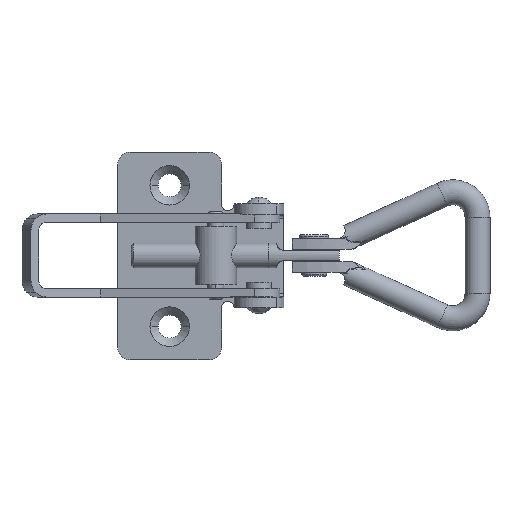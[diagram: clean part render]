
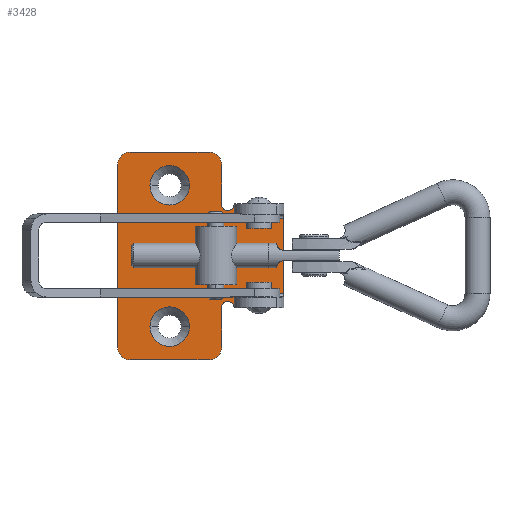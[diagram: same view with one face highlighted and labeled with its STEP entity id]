
A CAD part, top view. The second image highlights one B-rep face of the part: STEP entity #3428.
In plain terms, the highlighted planar face has unit normal (0, 0, 1).
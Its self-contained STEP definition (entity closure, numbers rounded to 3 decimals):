
#2500=CARTESIAN_POINT('',(8.,-12.4,1.3));
#2501=VERTEX_POINT('',#2500);
#2544=CARTESIAN_POINT('',(-19.121,24.121,1.3));
#2545=VERTEX_POINT('',#2544);
#2561=CARTESIAN_POINT('',(-20.0,22.0,1.3));
#2562=VERTEX_POINT('',#2561);
#2569=CARTESIAN_POINT('',(-17.0,22.0,1.3));
#2570=DIRECTION('',(0.0,0.0,-1.));
#2571=DIRECTION('',(-0.707,0.707,0.0));
#2572=AXIS2_PLACEMENT_3D('',#2569,#2570,#2571);
#2573=CIRCLE('',#2572,3.0);
#2574=EDGE_CURVE('',#2562,#2545,#2573,.T.);
#2586=CARTESIAN_POINT('',(-19.121,-24.121,1.3));
#2587=VERTEX_POINT('',#2586);
#2603=CARTESIAN_POINT('',(-17.0,-25.0,1.3));
#2604=VERTEX_POINT('',#2603);
#2611=CARTESIAN_POINT('',(-17.0,-22.0,1.3));
#2612=DIRECTION('',(0.0,0.0,-1.));
#2613=DIRECTION('',(-0.707,-0.707,0.0));
#2614=AXIS2_PLACEMENT_3D('',#2611,#2612,#2613);
#2615=CIRCLE('',#2614,3.0);
#2616=EDGE_CURVE('',#2604,#2587,#2615,.T.);
#2628=CARTESIAN_POINT('',(4.121,-24.121,1.3));
#2629=VERTEX_POINT('',#2628);
#2645=CARTESIAN_POINT('',(5.0,-22.0,1.3));
#2646=VERTEX_POINT('',#2645);
#2653=CARTESIAN_POINT('',(2.,-22.0,1.3));
#2654=DIRECTION('',(0.0,0.0,-1.0));
#2655=DIRECTION('',(0.707,-0.707,0.0));
#2656=AXIS2_PLACEMENT_3D('',#2653,#2654,#2655);
#2657=CIRCLE('',#2656,3.0);
#2658=EDGE_CURVE('',#2646,#2629,#2657,.T.);
#2670=CARTESIAN_POINT('',(4.121,24.121,1.3));
#2671=VERTEX_POINT('',#2670);
#2687=CARTESIAN_POINT('',(2.0,25.0,1.3));
#2688=VERTEX_POINT('',#2687);
#2695=CARTESIAN_POINT('',(2.0,22.0,1.3));
#2696=DIRECTION('',(0.0,0.0,-1.));
#2697=DIRECTION('',(0.707,0.707,0.0));
#2698=AXIS2_PLACEMENT_3D('',#2695,#2696,#2697);
#2699=CIRCLE('',#2698,3.0);
#2700=EDGE_CURVE('',#2688,#2671,#2699,.T.);
#2754=CARTESIAN_POINT('',(8.,12.4,1.3));
#2755=VERTEX_POINT('',#2754);
#2797=CARTESIAN_POINT('',(5.0,12.4,1.3));
#2798=VERTEX_POINT('',#2797);
#2805=CARTESIAN_POINT('',(6.5,12.4,1.3));
#2806=DIRECTION('',(0.0,0.0,1.0));
#2807=DIRECTION('',(1.0,0.0,0.0));
#2808=AXIS2_PLACEMENT_3D('',#2805,#2806,#2807);
#2809=CIRCLE('',#2808,1.5);
#2810=EDGE_CURVE('',#2798,#2755,#2809,.T.);
#3158=CARTESIAN_POINT('',(-12.25,-17.0,1.3));
#3159=VERTEX_POINT('',#3158);
#3173=CARTESIAN_POINT('',(-2.75,-17.0,1.3));
#3174=VERTEX_POINT('',#3173);
#3181=CARTESIAN_POINT('',(-7.5,-17.0,1.3));
#3182=DIRECTION('',(0.0,0.0,1.0));
#3183=DIRECTION('',(-1.0,0.0,0.0));
#3184=AXIS2_PLACEMENT_3D('',#3181,#3182,#3183);
#3185=CIRCLE('',#3184,4.75);
#3186=EDGE_CURVE('',#3174,#3159,#3185,.T.);
#3238=CARTESIAN_POINT('',(-12.25,17.0,1.3));
#3239=VERTEX_POINT('',#3238);
#3253=CARTESIAN_POINT('',(-2.75,17.0,1.3));
#3254=VERTEX_POINT('',#3253);
#3261=CARTESIAN_POINT('',(-7.5,17.0,1.3));
#3262=DIRECTION('',(0.0,0.0,1.0));
#3263=DIRECTION('',(-1.0,0.0,0.0));
#3264=AXIS2_PLACEMENT_3D('',#3261,#3262,#3263);
#3265=CIRCLE('',#3264,4.75);
#3266=EDGE_CURVE('',#3254,#3239,#3265,.T.);
#3277=CARTESIAN_POINT('',(-7.5,17.0,1.3));
#3278=DIRECTION('',(0.0,0.0,1.0));
#3279=DIRECTION('',(-1.0,0.0,0.0));
#3280=AXIS2_PLACEMENT_3D('',#3277,#3278,#3279);
#3281=CIRCLE('',#3280,4.75);
#3282=EDGE_CURVE('',#3239,#3254,#3281,.T.);
#3289=CARTESIAN_POINT('',(-1.939,0.,1.3));
#3290=DIRECTION('',(0.0,0.0,1.0));
#3291=DIRECTION('',(1.0,0.0,0.0));
#3292=AXIS2_PLACEMENT_3D('',#3289,#3290,#3291);
#3293=PLANE('',#3292);
#3294=CARTESIAN_POINT('',(20.,-9.,1.3));
#3295=VERTEX_POINT('',#3294);
#3296=CARTESIAN_POINT('',(8.,-9.0,1.3));
#3297=VERTEX_POINT('',#3296);
#3298=CARTESIAN_POINT('',(20.,-9.,1.3));
#3299=DIRECTION('',(-1.0,0.0,0.0));
#3300=VECTOR('',#3299,12.);
#3301=LINE('',#3298,#3300);
#3302=EDGE_CURVE('',#3295,#3297,#3301,.T.);
#3303=ORIENTED_EDGE('',*,*,#3302,.F.);
#3304=CARTESIAN_POINT('',(20.,9.0,1.3));
#3305=VERTEX_POINT('',#3304);
#3306=CARTESIAN_POINT('',(20.,9.0,1.3));
#3307=DIRECTION('',(0.0,-1.0,0.0));
#3308=VECTOR('',#3307,18.0);
#3309=LINE('',#3306,#3308);
#3310=EDGE_CURVE('',#3305,#3295,#3309,.T.);
#3311=ORIENTED_EDGE('',*,*,#3310,.F.);
#3312=CARTESIAN_POINT('',(8.,9.0,1.3));
#3313=VERTEX_POINT('',#3312);
#3314=CARTESIAN_POINT('',(8.,9.0,1.3));
#3315=DIRECTION('',(1.0,0.0,0.0));
#3316=VECTOR('',#3315,12.);
#3317=LINE('',#3314,#3316);
#3318=EDGE_CURVE('',#3313,#3305,#3317,.T.);
#3319=ORIENTED_EDGE('',*,*,#3318,.F.);
#3320=CARTESIAN_POINT('',(8.,9.0,1.3));
#3321=DIRECTION('',(0.0,1.0,0.0));
#3322=VECTOR('',#3321,3.4);
#3323=LINE('',#3320,#3322);
#3324=EDGE_CURVE('',#3313,#2755,#3323,.T.);
#3325=ORIENTED_EDGE('',*,*,#3324,.T.);
#3326=ORIENTED_EDGE('',*,*,#2810,.F.);
#3327=CARTESIAN_POINT('',(5.0,22.0,1.3));
#3328=VERTEX_POINT('',#3327);
#3329=CARTESIAN_POINT('',(5.0,22.0,1.3));
#3330=DIRECTION('',(0.0,-1.0,0.0));
#3331=VECTOR('',#3330,9.6);
#3332=LINE('',#3329,#3331);
#3333=EDGE_CURVE('',#3328,#2798,#3332,.T.);
#3334=ORIENTED_EDGE('',*,*,#3333,.F.);
#3335=CARTESIAN_POINT('',(2.0,22.0,1.3));
#3336=DIRECTION('',(0.0,0.0,-1.));
#3337=DIRECTION('',(0.707,0.707,0.0));
#3338=AXIS2_PLACEMENT_3D('',#3335,#3336,#3337);
#3339=CIRCLE('',#3338,3.0);
#3340=EDGE_CURVE('',#2671,#3328,#3339,.T.);
#3341=ORIENTED_EDGE('',*,*,#3340,.F.);
#3342=ORIENTED_EDGE('',*,*,#2700,.F.);
#3343=CARTESIAN_POINT('',(-17.0,25.0,1.3));
#3344=VERTEX_POINT('',#3343);
#3345=CARTESIAN_POINT('',(-17.0,25.0,1.3));
#3346=DIRECTION('',(1.0,0.0,0.0));
#3347=VECTOR('',#3346,19.0);
#3348=LINE('',#3345,#3347);
#3349=EDGE_CURVE('',#3344,#2688,#3348,.T.);
#3350=ORIENTED_EDGE('',*,*,#3349,.F.);
#3351=CARTESIAN_POINT('',(-17.0,22.0,1.3));
#3352=DIRECTION('',(0.0,0.0,-1.));
#3353=DIRECTION('',(-0.707,0.707,0.0));
#3354=AXIS2_PLACEMENT_3D('',#3351,#3352,#3353);
#3355=CIRCLE('',#3354,3.0);
#3356=EDGE_CURVE('',#2545,#3344,#3355,.T.);
#3357=ORIENTED_EDGE('',*,*,#3356,.F.);
#3358=ORIENTED_EDGE('',*,*,#2574,.F.);
#3359=CARTESIAN_POINT('',(-20.0,-22.0,1.3));
#3360=VERTEX_POINT('',#3359);
#3361=CARTESIAN_POINT('',(-20.0,-22.0,1.3));
#3362=DIRECTION('',(0.0,1.0,0.0));
#3363=VECTOR('',#3362,44.0);
#3364=LINE('',#3361,#3363);
#3365=EDGE_CURVE('',#3360,#2562,#3364,.T.);
#3366=ORIENTED_EDGE('',*,*,#3365,.F.);
#3367=CARTESIAN_POINT('',(-17.0,-22.0,1.3));
#3368=DIRECTION('',(0.0,0.0,-1.));
#3369=DIRECTION('',(-0.707,-0.707,0.0));
#3370=AXIS2_PLACEMENT_3D('',#3367,#3368,#3369);
#3371=CIRCLE('',#3370,3.0);
#3372=EDGE_CURVE('',#2587,#3360,#3371,.T.);
#3373=ORIENTED_EDGE('',*,*,#3372,.F.);
#3374=ORIENTED_EDGE('',*,*,#2616,.F.);
#3375=CARTESIAN_POINT('',(2.0,-25.0,1.3));
#3376=VERTEX_POINT('',#3375);
#3377=CARTESIAN_POINT('',(2.0,-25.0,1.3));
#3378=DIRECTION('',(-1.0,0.0,0.0));
#3379=VECTOR('',#3378,19.0);
#3380=LINE('',#3377,#3379);
#3381=EDGE_CURVE('',#3376,#2604,#3380,.T.);
#3382=ORIENTED_EDGE('',*,*,#3381,.F.);
#3383=CARTESIAN_POINT('',(2.,-22.0,1.3));
#3384=DIRECTION('',(0.0,0.0,-1.0));
#3385=DIRECTION('',(0.707,-0.707,0.0));
#3386=AXIS2_PLACEMENT_3D('',#3383,#3384,#3385);
#3387=CIRCLE('',#3386,3.0);
#3388=EDGE_CURVE('',#2629,#3376,#3387,.T.);
#3389=ORIENTED_EDGE('',*,*,#3388,.F.);
#3390=ORIENTED_EDGE('',*,*,#2658,.F.);
#3391=CARTESIAN_POINT('',(5.0,-12.4,1.3));
#3392=VERTEX_POINT('',#3391);
#3393=CARTESIAN_POINT('',(5.0,-12.4,1.3));
#3394=DIRECTION('',(0.0,-1.0,0.0));
#3395=VECTOR('',#3394,9.6);
#3396=LINE('',#3393,#3395);
#3397=EDGE_CURVE('',#3392,#2646,#3396,.T.);
#3398=ORIENTED_EDGE('',*,*,#3397,.F.);
#3399=CARTESIAN_POINT('',(6.5,-12.4,1.3));
#3400=DIRECTION('',(0.0,0.0,1.0));
#3401=DIRECTION('',(1.0,0.0,0.0));
#3402=AXIS2_PLACEMENT_3D('',#3399,#3400,#3401);
#3403=CIRCLE('',#3402,1.5);
#3404=EDGE_CURVE('',#2501,#3392,#3403,.T.);
#3405=ORIENTED_EDGE('',*,*,#3404,.F.);
#3406=CARTESIAN_POINT('',(8.,-12.4,1.3));
#3407=DIRECTION('',(0.0,1.0,0.0));
#3408=VECTOR('',#3407,3.4);
#3409=LINE('',#3406,#3408);
#3410=EDGE_CURVE('',#2501,#3297,#3409,.T.);
#3411=ORIENTED_EDGE('',*,*,#3410,.T.);
#3412=EDGE_LOOP('',(#3303,#3311,#3319,#3325,#3326,#3334,#3341,#3342,#3350,#3357,#3358,#3366,#3373,#3374,#3382,#3389,#3390,#3398,#3405,#3411));
#3413=FACE_OUTER_BOUND('',#3412,.T.);
#3414=ORIENTED_EDGE('',*,*,#3186,.F.);
#3415=CARTESIAN_POINT('',(-7.5,-17.0,1.3));
#3416=DIRECTION('',(0.0,0.0,1.0));
#3417=DIRECTION('',(-1.0,0.0,0.0));
#3418=AXIS2_PLACEMENT_3D('',#3415,#3416,#3417);
#3419=CIRCLE('',#3418,4.75);
#3420=EDGE_CURVE('',#3159,#3174,#3419,.T.);
#3421=ORIENTED_EDGE('',*,*,#3420,.F.);
#3422=EDGE_LOOP('',(#3414,#3421));
#3423=FACE_BOUND('',#3422,.T.);
#3424=ORIENTED_EDGE('',*,*,#3266,.F.);
#3425=ORIENTED_EDGE('',*,*,#3282,.F.);
#3426=EDGE_LOOP('',(#3424,#3425));
#3427=FACE_BOUND('',#3426,.T.);
#3428=ADVANCED_FACE('',(#3413,#3423,#3427),#3293,.T.);
